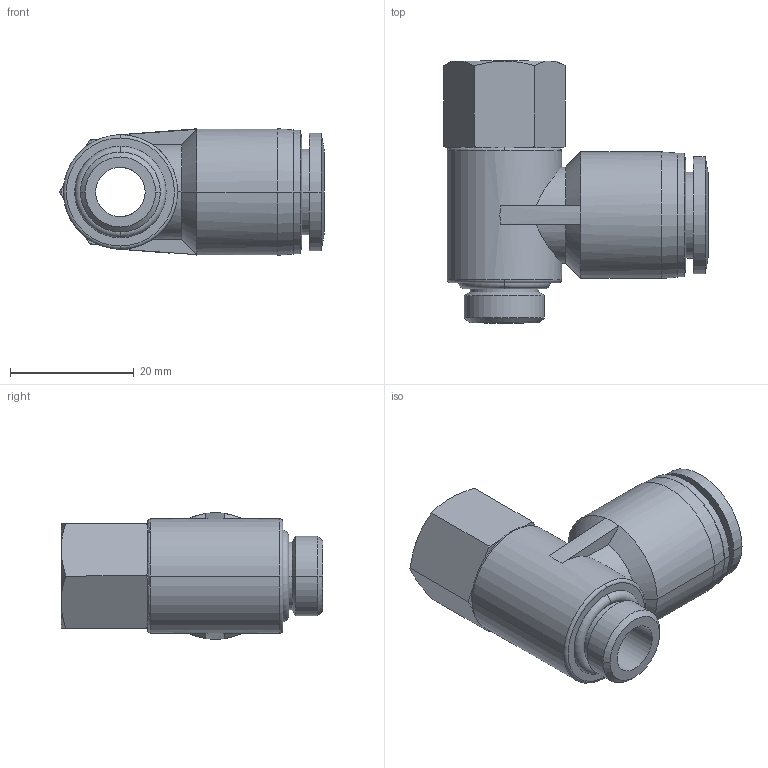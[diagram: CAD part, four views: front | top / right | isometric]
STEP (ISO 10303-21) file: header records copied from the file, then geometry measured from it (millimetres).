
FILE_DESCRIPTION (( 'STEP AP203' ), '1' );
FILE_NAME ('FVF12-02.STEP', '2020-05-11T14:30:29', ( '' ), ( '' ), 'SwSTEP 2.0', 'SolidWorks 2019', '' );
FILE_SCHEMA (( 'CONFIG_CONTROL_DESIGN' ));
Length unit declared in the file: millimetre
Products named in the file (1): FVF12-02
Bounding box: 42.81 x 42.4 x 20.5 mm (x, y, z)
Volume: 11478.6 mm3; surface area: 7065.4 mm2
Topology: 1 solids, 1 shells, 93 faces, 221 edges, 135 vertices
Faces by surface type: plane 29, cone 27, cylinder 25, bspline 6, torus 6
Entity records: 2989 total; most frequent: CARTESIAN_POINT 810, DIRECTION 460, ORIENTED_EDGE 442, EDGE_CURVE 221, AXIS2_PLACEMENT_3D 195, VERTEX_POINT 135, CIRCLE 107, EDGE_LOOP 102
